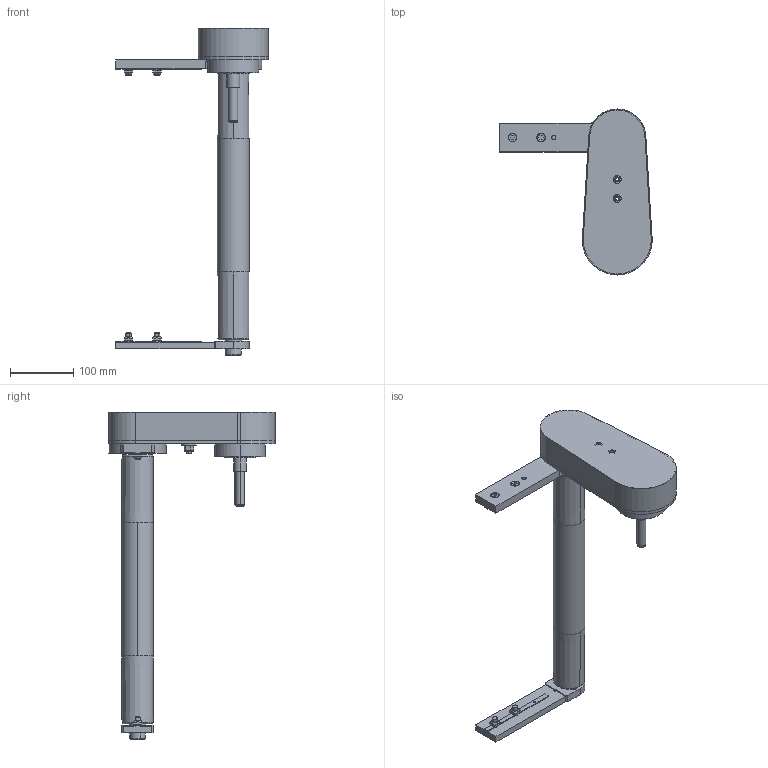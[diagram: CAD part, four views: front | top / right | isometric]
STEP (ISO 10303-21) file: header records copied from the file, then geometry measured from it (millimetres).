
FILE_DESCRIPTION (( 'STEP AP203' ), '1' );
FILE_NAME ('084.050.KTB.30.400.STEP', '2019-07-29T13:31:19', ( '' ), ( '' ), 'SwSTEP 2.0', 'SolidWorks 2018', '' );
FILE_SCHEMA (( 'CONFIG_CONTROL_DESIGN' ));
Length unit declared in the file: millimetre
Products named in the file (25): 084.821.002; 084.802.021; 084.050.KTB.30.400; DADI ESAGONALI AUTOBLOCCANTI UNI 7473_M8 UNI 7473; CHIAVETTE_A 5x5x50 UNI 6604-69; 084.809.004; 084.810.006; 084.809.003; 084.302.000 DADI ALUSIC 13x13_084.302.004; 084.809.001; 084.821.003; CUSCINETTI A SFERE_608-2RS; Circlip DIN 471 - 8 x 0.8_Circlip DIN 471 - 8 x 0.8; 084.815.117_Default<A macchina>; 084.813.006; 084.807.001_084.807.001; RONDELLE FASCIA LARGA UNI 6593_8.4x24 UNI 6593; 084.813.001; 084.301.000 VITI ALUSIC_084.301.003; 084.807.002_084.807.002; 084.811.004; 084.802.034_084.802.034; 084.810.001; 084.802.017_084.802.017; 084.810.008
Assembly tree (34 placements, depth 3):
  084.050.KTB.30.400
    084.815.117_Default<A macchina>
    084.811.004
    084.813.001
    084.810.001  x2
    084.802.034_084.802.034
    084.802.017_084.802.017
    084.807.001_084.807.001
    084.807.002_084.807.002
    084.809.004
    084.813.006
    084.802.021
    084.809.001
    084.809.003
    084.301.000 VITI ALUSIC_084.301.003  x4
    084.302.000 DADI ALUSIC 13x13_084.302.004  x4
    CHIAVETTE_A 5x5x50 UNI 6604-69
    084.821.002  x2
    084.810.006
      084.810.008
      CUSCINETTI A SFERE_608-2RS  x3
      Circlip DIN 471 - 8 x 0.8_Circlip DIN 471 - 8 x 0.8
      RONDELLE FASCIA LARGA UNI 6593_8.4x24 UNI 6593
      DADI ESAGONALI AUTOBLOCCANTI UNI 7473_M8 UNI 7473
    084.821.003
Bounding box: 240 x 261.5 x 516 mm (x, y, z)
Volume: 1053267.8 mm3; surface area: 571604.2 mm2
Topology: 38 solids, 39 shells, 1492 faces, 3919 edges, 2557 vertices
Faces by surface type: plane 661, cylinder 604, cone 112, torus 106, sphere 9
Entity records: 38513 total; most frequent: CARTESIAN_POINT 6989, DIRECTION 6282, ORIENTED_EDGE 5820, EDGE_CURVE 2910, AXIS2_PLACEMENT_3D 2319, VERTEX_POINT 1900, LINE 1644, VECTOR 1644
